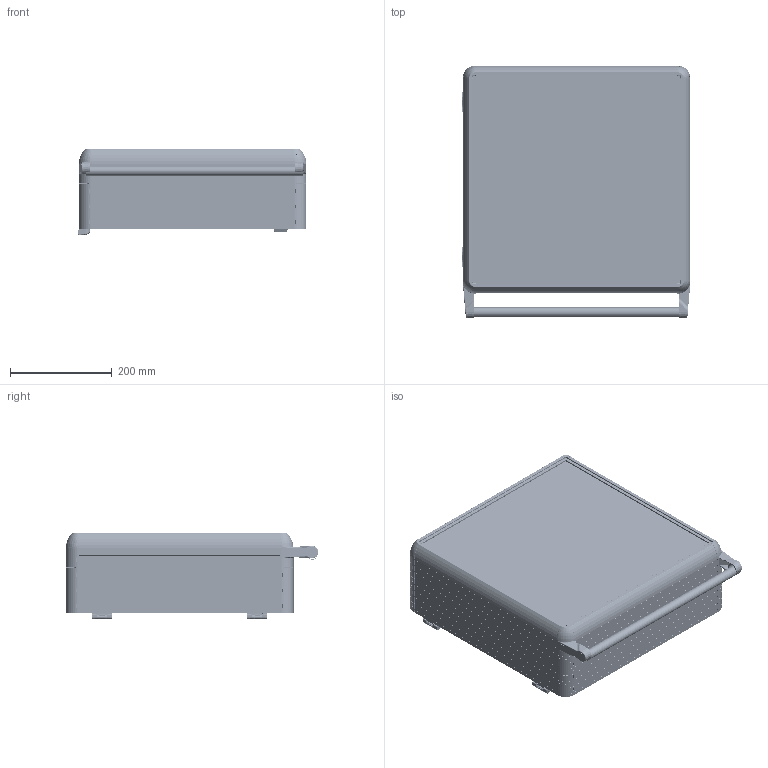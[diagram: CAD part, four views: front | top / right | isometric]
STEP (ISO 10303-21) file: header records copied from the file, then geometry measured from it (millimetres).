
FILE_DESCRIPTION (( 'STEP AP203' ), '1' );
FILE_NAME ('1500-0108.STEP', '2022-09-01T08:35:52', ( '' ), ( '' ), 'SwSTEP 2.0', 'SolidWorks 2022', '' );
FILE_SCHEMA (( 'CONFIG_CONTROL_DESIGN' ));
Length unit declared in the file: millimetre
Products named in the file (8): HPECO-150-001_395; 400X400; ECO1500-0100(SOL); ECO1500-0000; ECO1500-0100(SAÐ); 1500-0108; boru_425; ARKA_KAPAK_400X400
Assembly tree (11 placements, depth 2):
  1500-0108
    400X400
    ARKA_KAPAK_400X400
    HPECO-150-001_395  x4
    ECO1500-0000  x2
    ECO1500-0100(SOL)
    boru_425
    ECO1500-0100(SAÐ)
Bounding box: 449.03 x 495.81 x 169.15 mm (x, y, z)
Volume: 2497734.3 mm3; surface area: 2127456 mm2
Topology: 43 solids, 93 shells, 10897 faces, 28322 edges, 17178 vertices
Faces by surface type: plane 3555, cylinder 3018, bspline 2912, cone 782, torus 496, sphere 134
Entity records: 304635 total; most frequent: CARTESIAN_POINT 121393, ORIENTED_EDGE 42618, DIRECTION 33185, EDGE_CURVE 21309, VERTEX_POINT 12965, AXIS2_PLACEMENT_3D 12337, EDGE_LOOP 8566, LINE 8511
